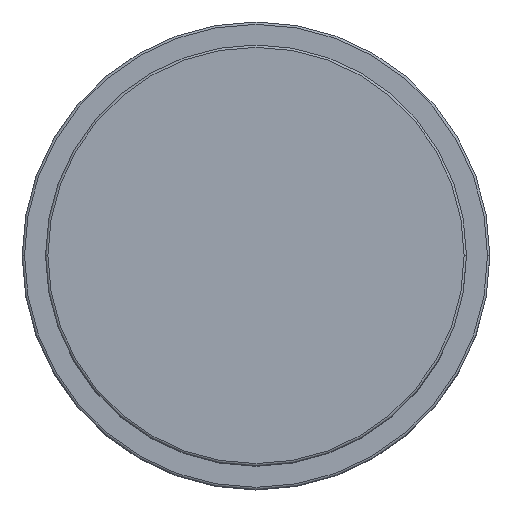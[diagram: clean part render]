
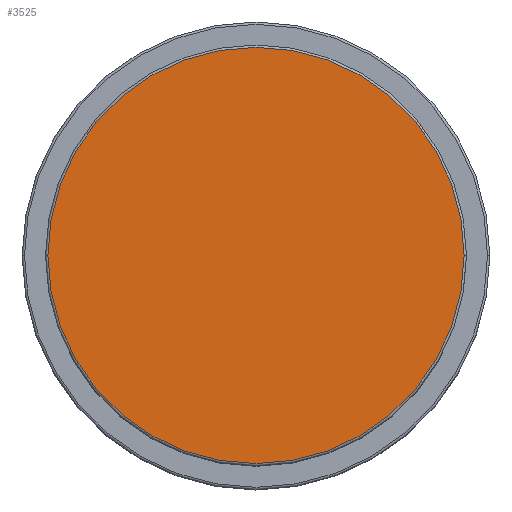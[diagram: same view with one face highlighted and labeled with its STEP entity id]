
A CAD part, top view. The second image highlights one B-rep face of the part: STEP entity #3525.
In plain terms, the highlighted planar face has unit normal (0, 0, 1).
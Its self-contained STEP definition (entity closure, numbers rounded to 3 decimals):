
#386 = EDGE_CURVE ( 'NONE', #6945, #3837, #6954, .T. ) ;
#444 = ORIENTED_EDGE ( 'NONE', *, *, #386, .T. ) ;
#577 = CARTESIAN_POINT ( 'NONE',  ( 44.5, 0., 67. ) ) ;
#603 = DIRECTION ( 'NONE',  ( 1., 0., 0. ) ) ;
#777 = DIRECTION ( 'NONE',  ( 0., 0., 1. ) ) ;
#1694 = DIRECTION ( 'NONE',  ( 0., 0., 1. ) ) ;
#2444 = CARTESIAN_POINT ( 'NONE',  ( 0., 0., 67. ) ) ;
#2663 = FACE_OUTER_BOUND ( 'NONE', #5257, .T. ) ;
#2717 = AXIS2_PLACEMENT_3D ( 'NONE', #2444, #4052, #6354 ) ;
#3156 = AXIS2_PLACEMENT_3D ( 'NONE', #5618, #1694, #603 ) ;
#3525 = ADVANCED_FACE ( 'NONE', ( #2663 ), #6890, .T. ) ;
#3837 = VERTEX_POINT ( 'NONE', #577 ) ;
#3861 = CARTESIAN_POINT ( 'NONE',  ( -44.5, 0., 67. ) ) ;
#3926 = CIRCLE ( 'NONE', #2717, 44.5 ) ;
#4052 = DIRECTION ( 'NONE',  ( 0., 0., 1. ) ) ;
#5257 = EDGE_LOOP ( 'NONE', ( #6441, #444 ) ) ;
#5618 = CARTESIAN_POINT ( 'NONE',  ( 0., 0., 67. ) ) ;
#6354 = DIRECTION ( 'NONE',  ( 1., 0., 0. ) ) ;
#6382 = DIRECTION ( 'NONE',  ( 1., 0., 0. ) ) ;
#6441 = ORIENTED_EDGE ( 'NONE', *, *, #7083, .T. ) ;
#6890 = PLANE ( 'NONE',  #6957 ) ;
#6907 = CARTESIAN_POINT ( 'NONE',  ( 0., 0., 67. ) ) ;
#6945 = VERTEX_POINT ( 'NONE', #3861 ) ;
#6954 = CIRCLE ( 'NONE', #3156, 44.5 ) ;
#6957 = AXIS2_PLACEMENT_3D ( 'NONE', #6907, #777, #6382 ) ;
#7083 = EDGE_CURVE ( 'NONE', #3837, #6945, #3926, .T. ) ;
